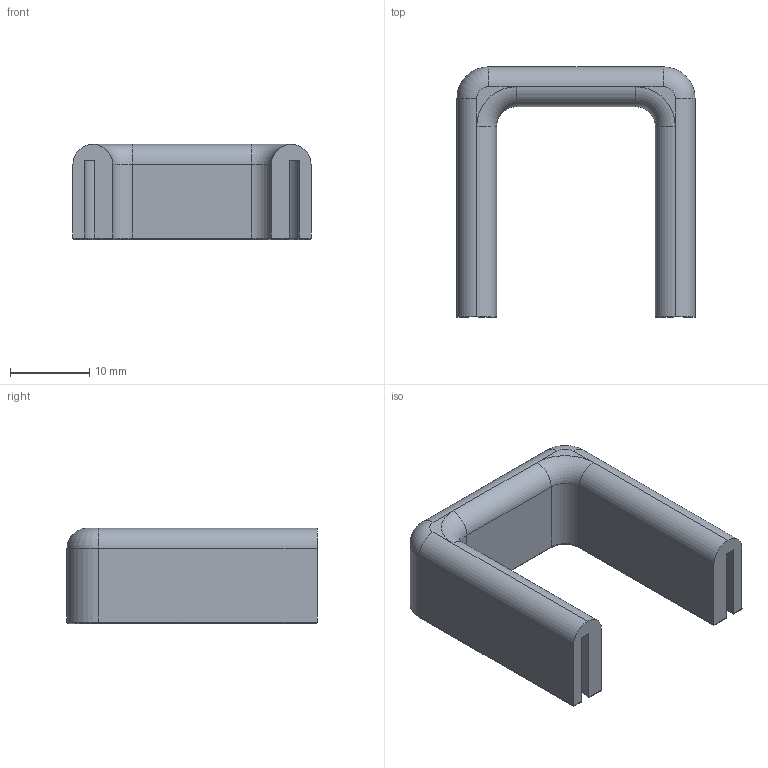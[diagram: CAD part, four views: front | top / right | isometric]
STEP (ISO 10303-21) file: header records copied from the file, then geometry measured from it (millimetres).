
FILE_DESCRIPTION (( 'STEP AP214' ), '1' );
FILE_NAME ('1.1077 Päätysuoja johtokourulle.STEP', '2026-03-04T12:44:30', ( '' ), ( '' ), 'SwSTEP 2.0', 'SolidWorks 2025', '' );
FILE_SCHEMA (( 'AUTOMOTIVE_DESIGN' ));
Length unit declared in the file: millimetre
Products named in the file (1): 1.1077 Päätysuoja johtokourulle
Bounding box: 30 x 31.5 x 12 mm (x, y, z)
Volume: 3363 mm3; surface area: 4261.9 mm2
Topology: 1 solids, 1 shells, 69 faces, 161 edges, 94 vertices
Faces by surface type: cylinder 34, plane 23, torus 12
Entity records: 1954 total; most frequent: CARTESIAN_POINT 361, DIRECTION 345, ORIENTED_EDGE 322, EDGE_CURVE 161, AXIS2_PLACEMENT_3D 126, VERTEX_POINT 94, LINE 93, VECTOR 93
